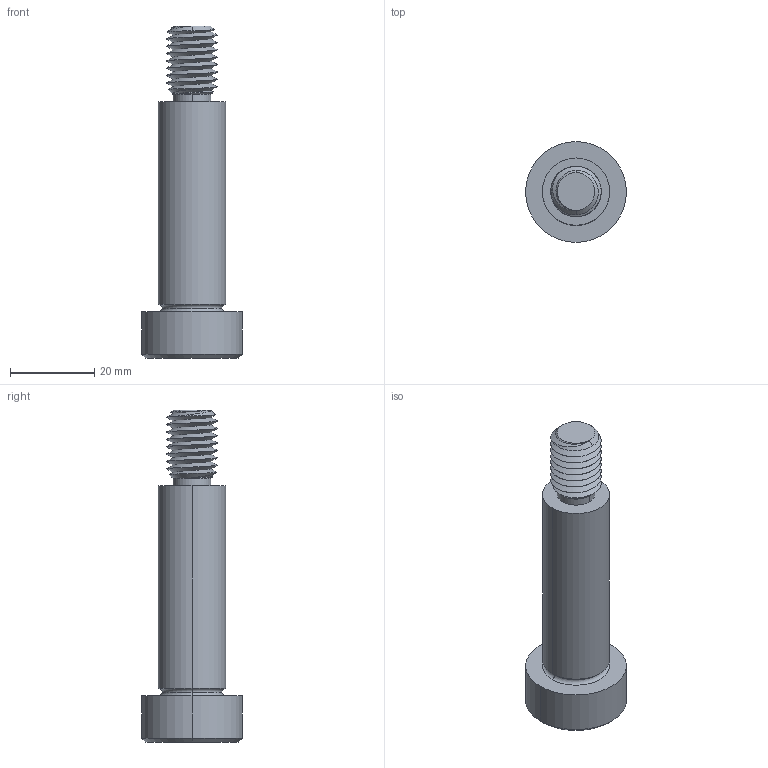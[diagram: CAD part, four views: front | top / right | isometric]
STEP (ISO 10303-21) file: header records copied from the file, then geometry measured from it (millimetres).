
FILE_DESCRIPTION (( 'STEP AP203' ), '1' );
FILE_NAME ('P0130.160-050-B2.step', '2021-11-09T22:15:38', ( '' ), ( '' ), 'SwSTEP 2.0', 'SolidWorks 2019', '' );
FILE_SCHEMA (( 'CONFIG_CONTROL_DESIGN' ));
Length unit declared in the file: millimetre
Products named in the file (1): P0130.160-050-B2
Bounding box: 24 x 24 x 79 mm (x, y, z)
Volume: 15957.8 mm3; surface area: 5556.4 mm2
Topology: 1 solids, 1 shells, 59 faces, 139 edges, 83 vertices
Faces by surface type: cylinder 22, plane 16, cone 15, torus 4, bspline 2
Entity records: 5164 total; most frequent: CARTESIAN_POINT 3839, ORIENTED_EDGE 274, DIRECTION 244, EDGE_CURVE 137, AXIS2_PLACEMENT_3D 98, VERTEX_POINT 83, EDGE_LOOP 62, FACE_OUTER_BOUND 59
